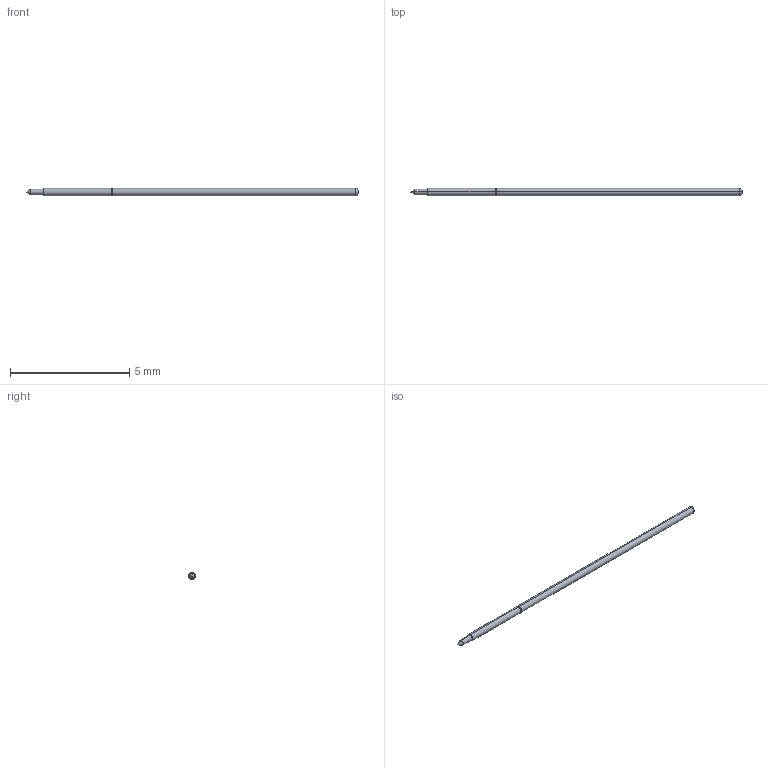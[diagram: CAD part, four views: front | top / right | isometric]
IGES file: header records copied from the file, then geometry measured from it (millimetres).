
Start section: SolidWorks IGES file using analytic representation for surfaces
Global section: file name: Z:\probe solid model mockups\Solidworks models\RMP-22B IGS files\RMP-22B RECD.IGS; native system: SolidWorks 2006 by SolidWorks Corporation; preprocessor: SolidWorks 2006 by SolidWorks Corporation; author: tsakatani; date: 071219.101933; units: inch
Bounding box: 13.92 x 0.3 x 0.3 mm (x, y, z)
Surface area: 13.2 mm2 (no closed solid volume)
Topology: 0 solids, 0 shells, 16 faces, 104 edges, 102 vertices
Faces by surface type: bspline 8, revolution 8
